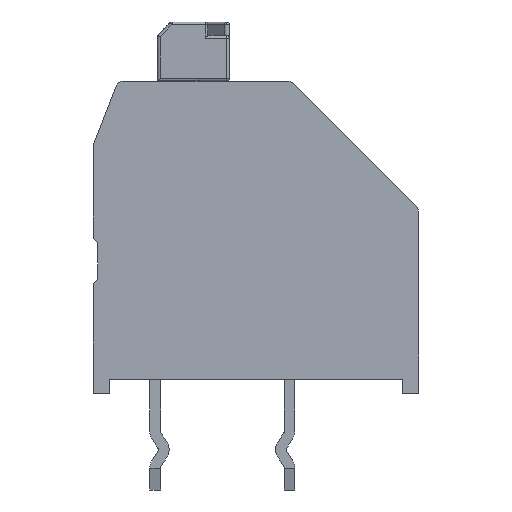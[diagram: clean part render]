
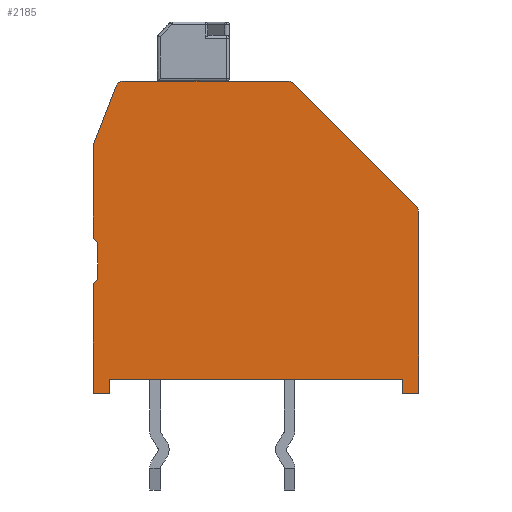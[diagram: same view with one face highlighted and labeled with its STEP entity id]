
A CAD part, left-side view. The second image highlights one B-rep face of the part: STEP entity #2185.
In plain terms, the highlighted planar face has unit normal (-1, 0, 0).
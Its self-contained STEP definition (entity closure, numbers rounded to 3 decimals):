
#54 = CARTESIAN_POINT ( 'NONE',  ( -10.25, -0.745, -9.138 ) ) ;
#172 = ORIENTED_EDGE ( 'NONE', *, *, #10354, .T. ) ;
#252 = VECTOR ( 'NONE', #17460, 1000. ) ;
#511 = VECTOR ( 'NONE', #1225, 1000. ) ;
#733 = DIRECTION ( 'NONE',  ( 0., 0.361, -0.932 ) ) ;
#802 = VECTOR ( 'NONE', #4830, 1000. ) ;
#857 = DIRECTION ( 'NONE',  ( 0., 0., -1. ) ) ;
#1118 = CIRCLE ( 'NONE', #7167, 0.3 ) ;
#1225 = DIRECTION ( 'NONE',  ( 0., 0., -1. ) ) ;
#1429 = LINE ( 'NONE', #1649, #13059 ) ;
#1570 = VECTOR ( 'NONE', #733, 1000. ) ;
#1649 = CARTESIAN_POINT ( 'NONE',  ( -10.25, -1.345, -14.402 ) ) ;
#1773 = DIRECTION ( 'NONE',  ( 0., -1., 0. ) ) ;
#1845 = LINE ( 'NONE', #9020, #4641 ) ;
#1995 = CIRCLE ( 'NONE', #3147, 0.3 ) ;
#2185 = ADVANCED_FACE ( 'NONE', ( #19488 ), #23141, .T. ) ;
#2268 = DIRECTION ( 'NONE',  ( -1., 0., 0. ) ) ;
#2474 = CARTESIAN_POINT ( 'NONE',  ( -10.25, -7.344, -3.302 ) ) ;
#2791 = ORIENTED_EDGE ( 'NONE', *, *, #6058, .T. ) ;
#3142 = EDGE_CURVE ( 'NONE', #6855, #13782, #15918, .T. ) ;
#3147 = AXIS2_PLACEMENT_3D ( 'NONE', #19497, #14022, #16255 ) ;
#3622 = VERTEX_POINT ( 'NONE', #17368 ) ;
#3850 = DIRECTION ( 'NONE',  ( 0., -1., 0. ) ) ;
#3987 = DIRECTION ( 'NONE',  ( 0., 0., -1. ) ) ;
#4073 = EDGE_CURVE ( 'NONE', #11294, #13881, #19389, .T. ) ;
#4333 = VERTEX_POINT ( 'NONE', #21561 ) ;
#4391 = VECTOR ( 'NONE', #11788, 1000. ) ;
#4403 = EDGE_LOOP ( 'NONE', ( #18663, #8827, #4414, #9881, #11913, #14706, #14709, #11352, #12883, #2791, #172, #5485, #6186, #11470, #12697, #23186, #10492, #5126 ) ) ;
#4414 = ORIENTED_EDGE ( 'NONE', *, *, #8319, .T. ) ;
#4432 = LINE ( 'NONE', #5122, #511 ) ;
#4446 = VERTEX_POINT ( 'NONE', #12193 ) ;
#4509 = VERTEX_POINT ( 'NONE', #20238 ) ;
#4641 = VECTOR ( 'NONE', #3987, 1000. ) ;
#4760 = CARTESIAN_POINT ( 'NONE',  ( -10.25, -0.745, -5.733 ) ) ;
#4830 = DIRECTION ( 'NONE',  ( 0., 0., 1. ) ) ;
#4837 = CARTESIAN_POINT ( 'NONE',  ( -10.25, -0.917, -10.664 ) ) ;
#5105 = CARTESIAN_POINT ( 'NONE',  ( -10.25, -0.745, -5.733 ) ) ;
#5108 = CARTESIAN_POINT ( 'NONE',  ( -10.25, -0.745, -14.902 ) ) ;
#5122 = CARTESIAN_POINT ( 'NONE',  ( -10.25, -0.745, -10.835 ) ) ;
#5126 = ORIENTED_EDGE ( 'NONE', *, *, #5146, .T. ) ;
#5146 = EDGE_CURVE ( 'NONE', #18547, #9648, #5612, .T. ) ;
#5485 = ORIENTED_EDGE ( 'NONE', *, *, #13363, .T. ) ;
#5553 = VECTOR ( 'NONE', #22193, 1000. ) ;
#5612 = LINE ( 'NONE', #19571, #10703 ) ;
#5963 = CARTESIAN_POINT ( 'NONE',  ( -10.25, -0.745, -10.835 ) ) ;
#6058 = EDGE_CURVE ( 'NONE', #18103, #19303, #1995, .T. ) ;
#6186 = ORIENTED_EDGE ( 'NONE', *, *, #3142, .T. ) ;
#6531 = AXIS2_PLACEMENT_3D ( 'NONE', #12600, #7307, #15760 ) ;
#6758 = CARTESIAN_POINT ( 'NONE',  ( -10.25, -12.845, -8.179 ) ) ;
#6855 = VERTEX_POINT ( 'NONE', #5105 ) ;
#6972 = CARTESIAN_POINT ( 'NONE',  ( -10.25, -12.845, -14.902 ) ) ;
#7007 = LINE ( 'NONE', #14186, #252 ) ;
#7026 = DIRECTION ( 'NONE',  ( -1., 0., 0. ) ) ;
#7140 = CARTESIAN_POINT ( 'NONE',  ( -10.25, -7.968, -3.602 ) ) ;
#7167 = AXIS2_PLACEMENT_3D ( 'NONE', #7140, #7026, #21325 ) ;
#7178 = EDGE_CURVE ( 'NONE', #8035, #9648, #23086, .T. ) ;
#7307 = DIRECTION ( 'NONE',  ( -1., 0., 0. ) ) ;
#7382 = VECTOR ( 'NONE', #14345, 1000. ) ;
#7506 = CARTESIAN_POINT ( 'NONE',  ( -10.25, -7.968, -3.302 ) ) ;
#7869 = CIRCLE ( 'NONE', #15041, 0.3 ) ;
#8035 = VERTEX_POINT ( 'NONE', #9587 ) ;
#8202 = LINE ( 'NONE', #19246, #4391 ) ;
#8319 = EDGE_CURVE ( 'NONE', #3622, #9520, #8202, .T. ) ;
#8433 = EDGE_CURVE ( 'NONE', #9520, #8856, #8908, .T. ) ;
#8827 = ORIENTED_EDGE ( 'NONE', *, *, #11466, .T. ) ;
#8856 = VERTEX_POINT ( 'NONE', #6972 ) ;
#8908 = LINE ( 'NONE', #10831, #7382 ) ;
#9020 = CARTESIAN_POINT ( 'NONE',  ( -10.25, -0.917, -9.309 ) ) ;
#9084 = VECTOR ( 'NONE', #22829, 1000. ) ;
#9520 = VERTEX_POINT ( 'NONE', #11556 ) ;
#9587 = CARTESIAN_POINT ( 'NONE',  ( -10.25, -1.345, -14.402 ) ) ;
#9648 = VERTEX_POINT ( 'NONE', #18309 ) ;
#9881 = ORIENTED_EDGE ( 'NONE', *, *, #8433, .T. ) ;
#10354 = EDGE_CURVE ( 'NONE', #19303, #4333, #13249, .T. ) ;
#10410 = EDGE_CURVE ( 'NONE', #8856, #15448, #17282, .T. ) ;
#10492 = ORIENTED_EDGE ( 'NONE', *, *, #15417, .T. ) ;
#10504 = VECTOR ( 'NONE', #13836, 1000. ) ;
#10703 = VECTOR ( 'NONE', #3850, 1000. ) ;
#10831 = CARTESIAN_POINT ( 'NONE',  ( -10.25, -0.745, -14.902 ) ) ;
#11294 = VERTEX_POINT ( 'NONE', #4837 ) ;
#11352 = ORIENTED_EDGE ( 'NONE', *, *, #14485, .T. ) ;
#11466 = EDGE_CURVE ( 'NONE', #8035, #3622, #1429, .T. ) ;
#11470 = ORIENTED_EDGE ( 'NONE', *, *, #13350, .T. ) ;
#11556 = CARTESIAN_POINT ( 'NONE',  ( -10.25, -12.245, -14.902 ) ) ;
#11659 = AXIS2_PLACEMENT_3D ( 'NONE', #18600, #2268, #857 ) ;
#11788 = DIRECTION ( 'NONE',  ( 0., 0., -1. ) ) ;
#11913 = ORIENTED_EDGE ( 'NONE', *, *, #10410, .T. ) ;
#12049 = CIRCLE ( 'NONE', #11659, 0.3 ) ;
#12193 = CARTESIAN_POINT ( 'NONE',  ( -10.25, -8.18, -3.39 ) ) ;
#12458 = DIRECTION ( 'NONE',  ( 0., 0., -1. ) ) ;
#12600 = CARTESIAN_POINT ( 'NONE',  ( -10.25, -1.871, -3.602 ) ) ;
#12697 = ORIENTED_EDGE ( 'NONE', *, *, #14943, .T. ) ;
#12883 = ORIENTED_EDGE ( 'NONE', *, *, #17964, .T. ) ;
#12908 = DIRECTION ( 'NONE',  ( 0., -0.707, -0.707 ) ) ;
#13059 = VECTOR ( 'NONE', #1773, 1000. ) ;
#13207 = VERTEX_POINT ( 'NONE', #19438 ) ;
#13215 = LINE ( 'NONE', #2474, #5553 ) ;
#13249 = LINE ( 'NONE', #15530, #1570 ) ;
#13350 = EDGE_CURVE ( 'NONE', #13782, #13207, #21783, .T. ) ;
#13363 = EDGE_CURVE ( 'NONE', #4333, #6855, #12049, .T. ) ;
#13782 = VERTEX_POINT ( 'NONE', #19696 ) ;
#13836 = DIRECTION ( 'NONE',  ( 0., 0., -1. ) ) ;
#13881 = VERTEX_POINT ( 'NONE', #5963 ) ;
#14022 = DIRECTION ( 'NONE',  ( -1., 0., 0. ) ) ;
#14151 = DIRECTION ( 'NONE',  ( 0., 0.707, -0.707 ) ) ;
#14186 = CARTESIAN_POINT ( 'NONE',  ( -10.25, -12.757, -7.967 ) ) ;
#14345 = DIRECTION ( 'NONE',  ( 0., -1., 0. ) ) ;
#14485 = EDGE_CURVE ( 'NONE', #4446, #21126, #1118, .T. ) ;
#14706 = ORIENTED_EDGE ( 'NONE', *, *, #21926, .T. ) ;
#14709 = ORIENTED_EDGE ( 'NONE', *, *, #16738, .T. ) ;
#14943 = EDGE_CURVE ( 'NONE', #13207, #11294, #1845, .T. ) ;
#15041 = AXIS2_PLACEMENT_3D ( 'NONE', #22750, #20991, #12458 ) ;
#15417 = EDGE_CURVE ( 'NONE', #13881, #18547, #4432, .T. ) ;
#15448 = VERTEX_POINT ( 'NONE', #6758 ) ;
#15530 = CARTESIAN_POINT ( 'NONE',  ( -10.25, -1.592, -3.493 ) ) ;
#15760 = DIRECTION ( 'NONE',  ( 0., 0., -1. ) ) ;
#15918 = LINE ( 'NONE', #4760, #9084 ) ;
#16252 = CARTESIAN_POINT ( 'NONE',  ( -10.25, -1.871, -3.302 ) ) ;
#16255 = DIRECTION ( 'NONE',  ( 0., 0., -1. ) ) ;
#16738 = EDGE_CURVE ( 'NONE', #4509, #4446, #7007, .T. ) ;
#16866 = CARTESIAN_POINT ( 'NONE',  ( -10.25, -12.845, -14.902 ) ) ;
#17282 = LINE ( 'NONE', #16866, #802 ) ;
#17368 = CARTESIAN_POINT ( 'NONE',  ( -10.25, -12.245, -14.402 ) ) ;
#17460 = DIRECTION ( 'NONE',  ( 0., 0.707, 0.707 ) ) ;
#17964 = EDGE_CURVE ( 'NONE', #21126, #18103, #13215, .T. ) ;
#18103 = VERTEX_POINT ( 'NONE', #16252 ) ;
#18309 = CARTESIAN_POINT ( 'NONE',  ( -10.25, -1.345, -14.902 ) ) ;
#18547 = VERTEX_POINT ( 'NONE', #5108 ) ;
#18600 = CARTESIAN_POINT ( 'NONE',  ( -10.25, -1.045, -5.733 ) ) ;
#18663 = ORIENTED_EDGE ( 'NONE', *, *, #7178, .F. ) ;
#19246 = CARTESIAN_POINT ( 'NONE',  ( -10.25, -12.245, -15.402 ) ) ;
#19303 = VERTEX_POINT ( 'NONE', #20669 ) ;
#19389 = LINE ( 'NONE', #21269, #23233 ) ;
#19438 = CARTESIAN_POINT ( 'NONE',  ( -10.25, -0.917, -9.309 ) ) ;
#19488 = FACE_OUTER_BOUND ( 'NONE', #4403, .T. ) ;
#19497 = CARTESIAN_POINT ( 'NONE',  ( -10.25, -1.871, -3.602 ) ) ;
#19571 = CARTESIAN_POINT ( 'NONE',  ( -10.25, -0.745, -14.902 ) ) ;
#19696 = CARTESIAN_POINT ( 'NONE',  ( -10.25, -0.745, -9.138 ) ) ;
#20238 = CARTESIAN_POINT ( 'NONE',  ( -10.25, -12.757, -7.967 ) ) ;
#20669 = CARTESIAN_POINT ( 'NONE',  ( -10.25, -1.592, -3.493 ) ) ;
#20991 = DIRECTION ( 'NONE',  ( -1., 0., 0. ) ) ;
#21126 = VERTEX_POINT ( 'NONE', #7506 ) ;
#21269 = CARTESIAN_POINT ( 'NONE',  ( -10.25, -0.917, -10.664 ) ) ;
#21325 = DIRECTION ( 'NONE',  ( 0., 0., -1. ) ) ;
#21426 = CARTESIAN_POINT ( 'NONE',  ( -10.25, -1.345, -3.602 ) ) ;
#21561 = CARTESIAN_POINT ( 'NONE',  ( -10.25, -0.766, -5.625 ) ) ;
#21783 = LINE ( 'NONE', #54, #22448 ) ;
#21926 = EDGE_CURVE ( 'NONE', #15448, #4509, #7869, .T. ) ;
#22193 = DIRECTION ( 'NONE',  ( 0., 1., 0. ) ) ;
#22448 = VECTOR ( 'NONE', #12908, 1000. ) ;
#22750 = CARTESIAN_POINT ( 'NONE',  ( -10.25, -12.545, -8.179 ) ) ;
#22829 = DIRECTION ( 'NONE',  ( 0., 0., -1. ) ) ;
#23086 = LINE ( 'NONE', #21426, #10504 ) ;
#23141 = PLANE ( 'NONE',  #6531 ) ;
#23186 = ORIENTED_EDGE ( 'NONE', *, *, #4073, .T. ) ;
#23233 = VECTOR ( 'NONE', #14151, 1000. ) ;
